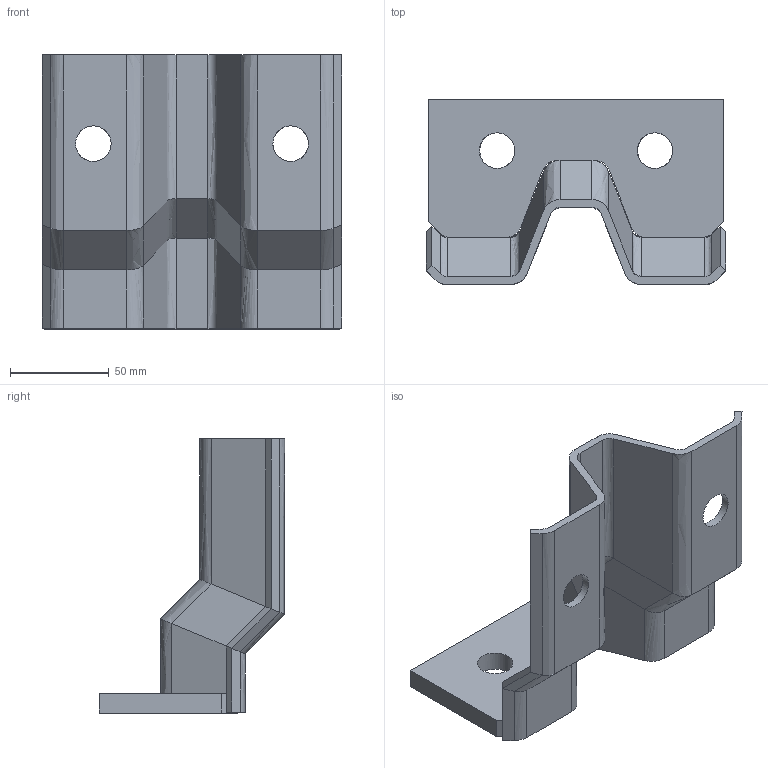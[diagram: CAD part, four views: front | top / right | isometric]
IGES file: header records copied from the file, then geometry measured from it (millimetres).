
Global section: file name: B175W80; native system: Autodesk RealDWG; preprocessor: Autodesk Translation Framework DWG producer (atf_dwg_producer); organization: unknown; date: 20230703.103743; units: centimetre
Bounding box: 151.72 x 94 x 139 mm (x, y, z)
Volume: 198152.7 mm3; surface area: 82346.2 mm2
Topology: 1 solids, 1 shells, 108 faces, 270 edges, 160 vertices
Faces by surface type: bspline 108
